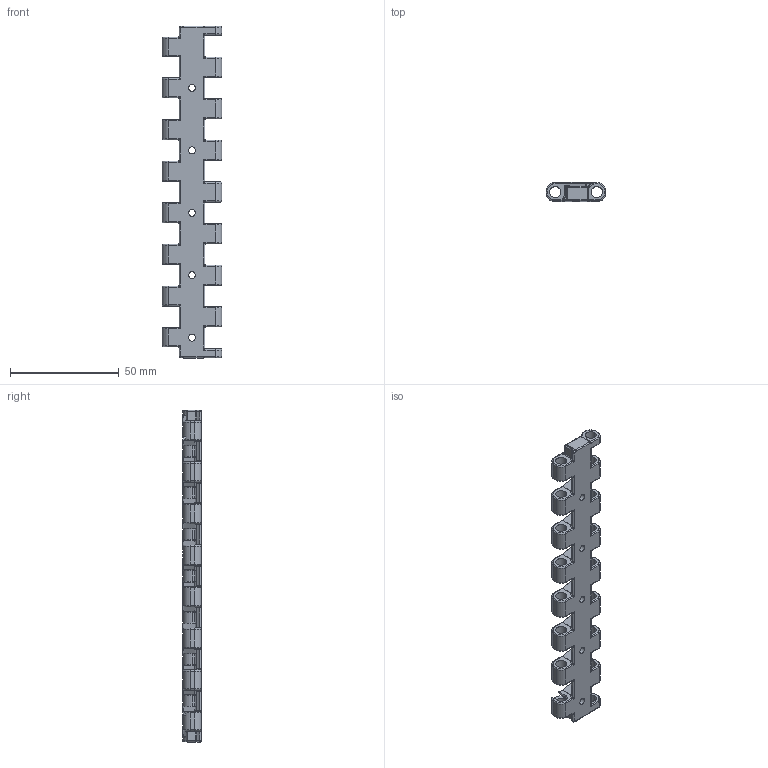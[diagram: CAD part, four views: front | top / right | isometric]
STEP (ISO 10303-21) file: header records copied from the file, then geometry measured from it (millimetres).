
FILE_DESCRIPTION((''),'2;1');
FILE_NAME('P170','2012-11-20T',('jas'),(''),'PRO/ENGINEER BY PARAMETRIC TECHNOLOGY CORPORATION, 2012230','PRO/ENGINEER BY PARAMETRIC TECHNOLOGY CORPORATION, 2012230','');
FILE_SCHEMA(('CONFIG_CONTROL_DESIGN'));
Products named in the file (1): P170
Bounding box: 27.53 x 8.5 x 152.4 mm (x, y, z)
Volume: 11696.5 mm3; surface area: 13184.8 mm2
Topology: 1 solids, 1 shells, 1314 faces, 3069 edges, 1766 vertices
Faces by surface type: cylinder 538, plane 268, torus 250, bspline 172, sphere 84, cone 2
Entity records: 51338 total; most frequent: CARTESIAN_POINT 22434, ORIENTED_EDGE 6138, DIRECTION 6043, EDGE_CURVE 3069, AXIS2_PLACEMENT_3D 2460, VERTEX_POINT 1766, EDGE_LOOP 1367, CIRCLE 1318
